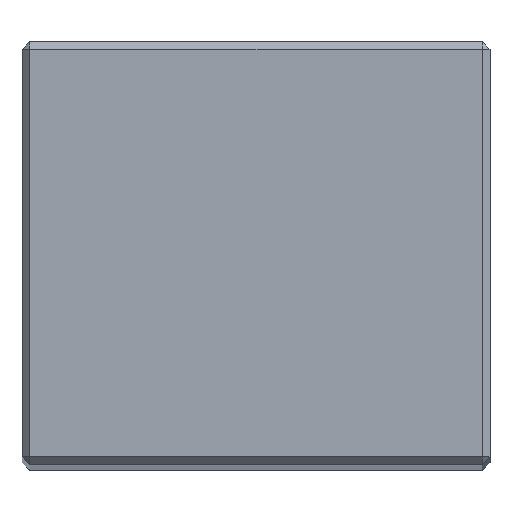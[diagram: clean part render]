
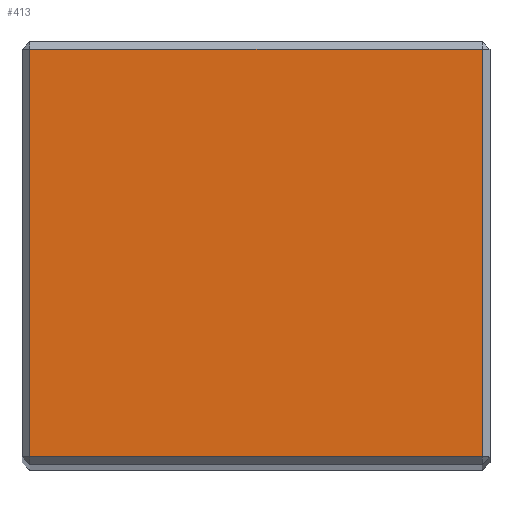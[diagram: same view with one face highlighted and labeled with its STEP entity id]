
A CAD part, top view. The second image highlights one B-rep face of the part: STEP entity #413.
In plain terms, the highlighted planar face has unit normal (0, 0, 1).
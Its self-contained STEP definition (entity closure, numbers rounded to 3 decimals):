
#21 = VECTOR ( 'NONE', #538, 1000. ) ;
#37 = EDGE_CURVE ( 'NONE', #548, #365, #373, .T. ) ;
#66 = VERTEX_POINT ( 'NONE', #323 ) ;
#74 = DIRECTION ( 'NONE',  ( -1., 0., 0. ) ) ;
#96 = LINE ( 'NONE', #501, #332 ) ;
#120 = EDGE_CURVE ( 'NONE', #365, #66, #96, .T. ) ;
#146 = DIRECTION ( 'NONE',  ( 0., 0., -1. ) ) ;
#153 = FACE_OUTER_BOUND ( 'NONE', #327, .T. ) ;
#177 = LINE ( 'NONE', #290, #499 ) ;
#198 = CARTESIAN_POINT ( 'NONE',  ( -30., 55., 223. ) ) ;
#204 = DIRECTION ( 'NONE',  ( 1., 0., 0. ) ) ;
#205 = DIRECTION ( 'NONE',  ( 0., 1., 0. ) ) ;
#208 = CARTESIAN_POINT ( 'NONE',  ( -30., 56., 223. ) ) ;
#231 = AXIS2_PLACEMENT_3D ( 'NONE', #440, #146, #74 ) ;
#262 = LINE ( 'NONE', #420, #382 ) ;
#273 = DIRECTION ( 'NONE',  ( -1., 0., 0. ) ) ;
#290 = CARTESIAN_POINT ( 'NONE',  ( -31., 55., 223. ) ) ;
#323 = CARTESIAN_POINT ( 'NONE',  ( 30., 1., 223. ) ) ;
#327 = EDGE_LOOP ( 'NONE', ( #398, #519, #635, #646 ) ) ;
#332 = VECTOR ( 'NONE', #204, 1000. ) ;
#337 = CARTESIAN_POINT ( 'NONE',  ( 30., 55., 223. ) ) ;
#365 = VERTEX_POINT ( 'NONE', #525 ) ;
#373 = LINE ( 'NONE', #208, #21 ) ;
#382 = VECTOR ( 'NONE', #205, 1000. ) ;
#394 = VERTEX_POINT ( 'NONE', #337 ) ;
#398 = ORIENTED_EDGE ( 'NONE', *, *, #516, .T. ) ;
#413 = ADVANCED_FACE ( 'NONE', ( #153 ), #490, .F. ) ;
#420 = CARTESIAN_POINT ( 'NONE',  ( 30., 56., 223. ) ) ;
#440 = CARTESIAN_POINT ( 'NONE',  ( 31., 56., 223. ) ) ;
#479 = EDGE_CURVE ( 'NONE', #66, #394, #262, .T. ) ;
#490 = PLANE ( 'NONE',  #231 ) ;
#499 = VECTOR ( 'NONE', #273, 1000. ) ;
#501 = CARTESIAN_POINT ( 'NONE',  ( 31., 1., 223. ) ) ;
#516 = EDGE_CURVE ( 'NONE', #394, #548, #177, .T. ) ;
#519 = ORIENTED_EDGE ( 'NONE', *, *, #37, .T. ) ;
#525 = CARTESIAN_POINT ( 'NONE',  ( -30., 1., 223. ) ) ;
#538 = DIRECTION ( 'NONE',  ( 0., -1., 0. ) ) ;
#548 = VERTEX_POINT ( 'NONE', #198 ) ;
#635 = ORIENTED_EDGE ( 'NONE', *, *, #120, .T. ) ;
#646 = ORIENTED_EDGE ( 'NONE', *, *, #479, .T. ) ;
